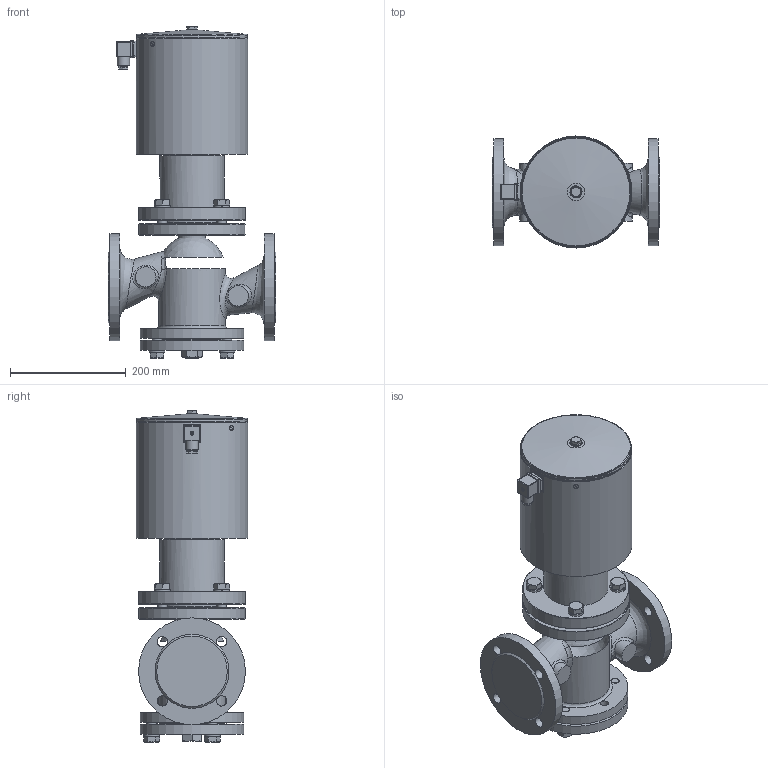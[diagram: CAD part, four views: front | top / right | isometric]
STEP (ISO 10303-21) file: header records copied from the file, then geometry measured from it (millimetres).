
FILE_DESCRIPTION((''),'2;1');
FILE_NAME('G:\CAD-Download\EVO\1-EVO\DN 65\1-EVO 25NH-4R.00.53.stp','2010-05-18T08:33:34',('hb'),(''),'Autodesk Inventor 2008','Autodesk Inventor 2008','');
FILE_SCHEMA(('AUTOMOTIVE_DESIGN { 1 0 10303 214 1 1 1 1 }'));
Length unit declared in the file: millimetre
Products named in the file (1): Bauteil6
Bounding box: 290 x 193.7 x 574.91 mm (x, y, z)
Volume: 11526138.7 mm3; surface area: 683184.2 mm2
Topology: 1 solids, 1 shells, 451 faces, 1108 edges, 690 vertices
Faces by surface type: plane 224, cylinder 88, cone 79, bspline 47, torus 8, sphere 5
Full cylindrical faces by diameter (mm): 5.5 x1, 6.4 x1, 6.9 x1, 14 x1, 14.63 x1, 14.917 x4, 16 x10, 21.5 x1, 22 x4, 22.49 x3, 35 x4, 46.5 x1, 93 x1, 97.8 x1, 109.8 x1, 111 x1, 115 x1, 116 x1, 180 x2, 185 x4, 186.5 x1, 189 x2, 193.7 x1
Entity records: 22576 total; most frequent: CARTESIAN_POINT 12485, DIRECTION 1985, ORIENTED_EDGE 1908, EDGE_CURVE 954, AXIS2_PLACEMENT_3D 811, VERTEX_POINT 633, EDGE_LOOP 629, FACE_OUTER_BOUND 451
